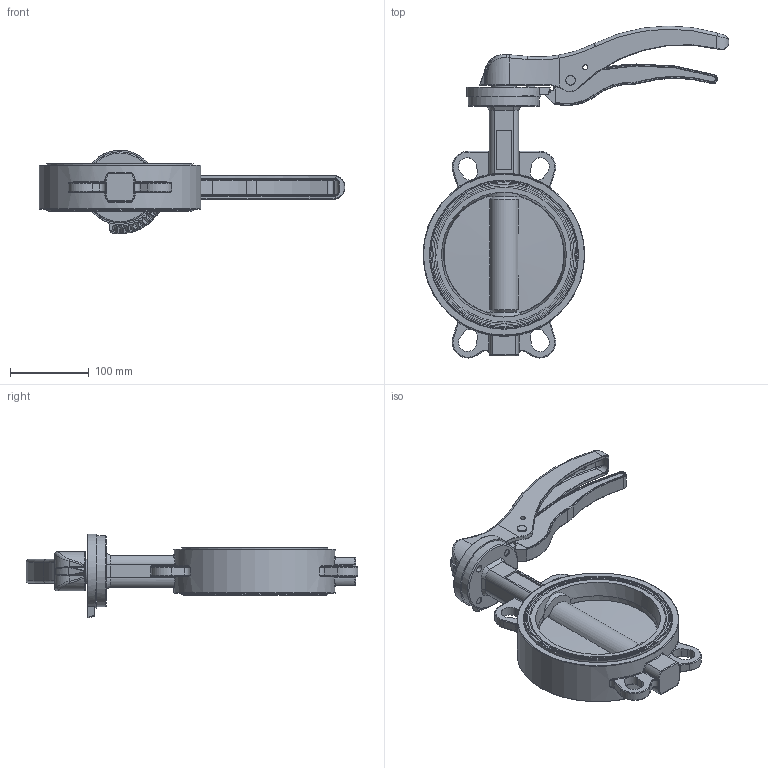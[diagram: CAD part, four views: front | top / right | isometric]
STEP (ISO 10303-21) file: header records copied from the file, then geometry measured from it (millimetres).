
FILE_DESCRIPTION (( 'STEP AP203' ), '1' );
FILE_NAME ('J9.DN150.STEP', '2012-12-17T15:51:43', ( 'luca.saino' ), ( 'Hewlett-Packard Company' ), 'SwSTEP 2.0', 'SolidWorks 2012', '' );
FILE_SCHEMA (( 'CONFIG_CONTROL_DESIGN' ));
Length unit declared in the file: millimetre
Products named in the file (1): J9.DN150
Bounding box: 387.75 x 420.9 x 105.92 mm (x, y, z)
Volume: 1707027.1 mm3; surface area: 279727.9 mm2
Topology: 1 solids, 3 shells, 1236 faces, 3186 edges, 1987 vertices
Faces by surface type: plane 440, cylinder 324, bspline 209, torus 187, cone 57, sphere 19
Full cylindrical faces by diameter (mm): 5 x2, 6 x1, 6.3 x2, 9 x4, 10 x3, 10.2 x4, 12 x1, 15 x2, 16 x2, 90 x1, 94 x1, 185.4 x2, 188.2 x2, 205 x1
Entity records: 46449 total; most frequent: CARTESIAN_POINT 18142, ORIENTED_EDGE 6130, DIRECTION 5539, EDGE_CURVE 3065, AXIS2_PLACEMENT_3D 2104, VERTEX_POINT 1949, EDGE_LOOP 1384, VECTOR 1331
